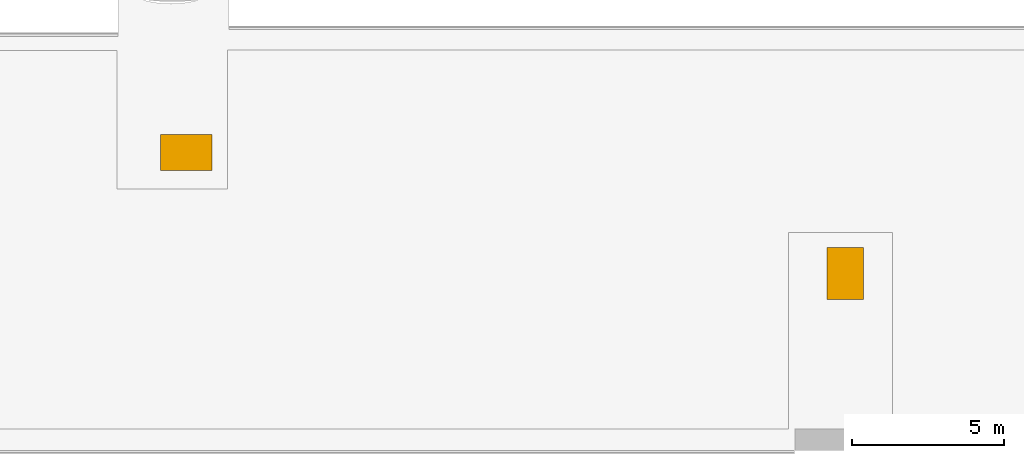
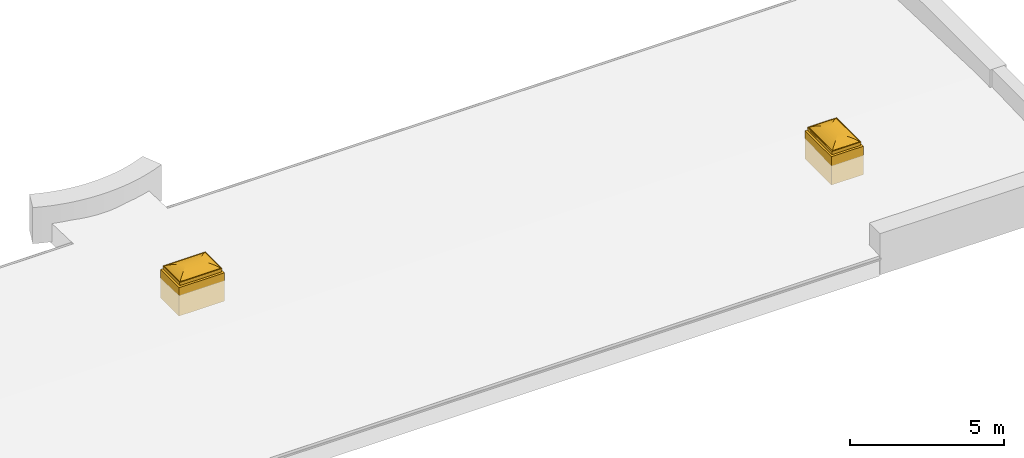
# One storey, part 3 of 4: 2 windows.
"""IFC2X3 building model written with IfcOpenShell, lengths in millimetres."""

from ifc_helpers import new_model, entity, si_unit, converted_unit, derived_unit, direction, frame, origin, place, context, subcontext, project, spatial, face_set, surface_model, source, transform, mapped, material, material_list, type_object, type_shapes, element, save


model = new_model("IFC2X3")

# Units and contexts
model_context = context("Model", 3, precision=0.01, world=origin(), true_north=direction((6.12303176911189e-17, 1.0)))
body_context = subcontext(model_context, "Body", "Model", "MODEL_VIEW")
ifc_project = project(units=[si_unit("LENGTHUNIT", "METRE", prefix="MILLI"), si_unit("AREAUNIT", "SQUARE_METRE"), si_unit("VOLUMEUNIT", "CUBIC_METRE"), converted_unit("PLANEANGLEUNIT", "DEGREE", entity("IfcRatioMeasure", 0.0174532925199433), si_unit("PLANEANGLEUNIT", "RADIAN"), dimensions=[0, 0, 0, 0, 0, 0, 0]), si_unit("MASSUNIT", "GRAM", prefix="KILO"), derived_unit("MASSDENSITYUNIT", [(si_unit("MASSUNIT", "GRAM", prefix="KILO"), 1), (si_unit("LENGTHUNIT", "METRE"), -3)]), si_unit("TIMEUNIT", "SECOND"), si_unit("FREQUENCYUNIT", "HERTZ"), si_unit("THERMODYNAMICTEMPERATUREUNIT", "DEGREE_CELSIUS"), derived_unit("THERMALTRANSMITTANCEUNIT", [(si_unit("MASSUNIT", "GRAM", prefix="KILO"), 1), (si_unit("THERMODYNAMICTEMPERATUREUNIT", "KELVIN"), -1), (si_unit("TIMEUNIT", "SECOND"), -3)]), derived_unit("VOLUMETRICFLOWRATEUNIT", [(si_unit("LENGTHUNIT", "METRE"), 3), (si_unit("TIMEUNIT", "SECOND"), -1)]), si_unit("ELECTRICCURRENTUNIT", "AMPERE"), si_unit("ELECTRICVOLTAGEUNIT", "VOLT"), si_unit("POWERUNIT", "WATT"), si_unit("FORCEUNIT", "NEWTON", prefix="KILO"), si_unit("ILLUMINANCEUNIT", "LUX"), si_unit("LUMINOUSFLUXUNIT", "LUMEN"), si_unit("LUMINOUSINTENSITYUNIT", "CANDELA"), derived_unit("USERDEFINED", [(si_unit("MASSUNIT", "GRAM", prefix="KILO"), -1), (si_unit("LENGTHUNIT", "METRE"), -2), (si_unit("TIMEUNIT", "SECOND"), 3), (si_unit("LUMINOUSFLUXUNIT", "LUMEN"), 1)]), derived_unit("LINEARVELOCITYUNIT", [(si_unit("LENGTHUNIT", "METRE"), 1), (si_unit("TIMEUNIT", "SECOND"), -1)]), si_unit("PRESSUREUNIT", "PASCAL"), derived_unit("USERDEFINED", [(si_unit("LENGTHUNIT", "METRE"), -2), (si_unit("MASSUNIT", "GRAM", prefix="KILO"), 1), (si_unit("TIMEUNIT", "SECOND"), -2)]), derived_unit("LINEARFORCEUNIT", [(si_unit("MASSUNIT", "GRAM", prefix="KILO"), 1), (si_unit("LENGTHUNIT", "METRE"), 1), (si_unit("TIMEUNIT", "SECOND"), -2), (si_unit("LENGTHUNIT", "METRE"), -1)]), derived_unit("PLANARFORCEUNIT", [(si_unit("MASSUNIT", "GRAM", prefix="KILO"), 1), (si_unit("LENGTHUNIT", "METRE"), 1), (si_unit("TIMEUNIT", "SECOND"), -2), (si_unit("LENGTHUNIT", "METRE"), -2)])], contexts=[model_context])

# Site, building, storey
site_placement = place(None, origin())
site = spatial("IfcSite", under=ifc_project, at=site_placement, Name="Default", CompositionType="ELEMENT")
building_placement = place(site_placement, origin())
building = spatial("IfcBuilding", under=site, at=building_placement, Name="SMA ARH", CompositionType="ELEMENT")
storey_placement = place(building_placement, frame((0.0, 0.0, 13000.0)))
storey = spatial("IfcBuildingStorey", under=building, at=storey_placement, Name="Katus", CompositionType="ELEMENT", Elevation=12999.9999999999)

# Windows
ifc_material = material(Name="<Unnamed>")
ifc_material_list = material_list([ifc_material, ifc_material, ifc_material, ifc_material, ifc_material, ifc_material])
window_style = type_object("IfcWindowStyle", Name="SMA_katuseluuk 1, kuppel:LU-01 - 1000 x 1500", ConstructionType="NOTDEFINED", OperationType="NOTDEFINED", ParameterTakesPrecedence=False, Sizeable=False, material=ifc_material_list)
shared_shape = source(origin(), body_context, "Body", "SurfaceModel", [
    surface_model("IfcFaceBasedSurfaceModel", [(770.0, -520.0, 5250.0), (770.0, -520.0, 5240.0), (770.0, 520.0, 5240.0), (770.0, 520.0, 5250.0), (768.0, -518.0, 5242.0), (768.0, 518.0, 5242.0), (768.0, 518.0, 5250.0), (768.0, -518.0, 5250.0), (762.0, -512.0, 5280.5432888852), (762.0, -512.0, 5242.0), (762.0, 512.0, 5242.0), (762.0, 512.0, 5280.5432888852), (760.0, -510.0, 5240.0), (760.0, 510.0, 5240.0), (760.0, 510.0, 5279.5), (760.0, -510.0, 5279.5), (-770.0, 520.0, 5240.0), (-770.0, 520.0, 5250.0), (-768.0, 518.0, 5242.0), (-768.0, 518.0, 5250.0), (-762.0, 512.0, 5242.0), (-762.0, 512.0, 5280.5432888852), (-760.0, 510.0, 5240.0), (-760.0, 510.0, 5279.5), (-770.0, -520.0, 5240.0), (-770.0, -520.0, 5250.0), (-768.0, -518.0, 5242.0), (-768.0, -518.0, 5250.0), (-762.0, -512.0, 5242.0), (-762.0, -512.0, 5280.5432888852), (-760.0, -510.0, 5240.0), (-760.0, -510.0, 5279.5), (696.294417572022, 446.294415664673, 5322.30710906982), (696.294417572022, -446.294415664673, 5322.30710906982), (627.204594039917, 377.204592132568, 5358.19619750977), (627.204594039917, -377.204592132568, 5358.19619750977), (555.254443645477, 305.254441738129, 5387.9391494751), (555.254443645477, -305.254441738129, 5387.9391494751), (480.9895362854, -230.989552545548, 5411.30923461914), (480.9895362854, 230.989552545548, 5411.30923461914), (404.97306432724, 154.973080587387, 5428.13030090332), (404.97306432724, -154.973080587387, 5428.13030090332), (327.781446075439, 77.7814441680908, 5438.27386779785), (327.781446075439, -77.7814441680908, 5438.27386779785), (250.000001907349, 0.0, 5441.66377716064), (327.459154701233, 77.4591346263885, 5436.29433746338), (327.459154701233, -77.4591346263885, 5436.29433746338), (404.333168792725, -154.33314871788, 5426.21181335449), (404.333168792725, 154.33314871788, 5426.21181335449), (480.041338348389, -230.04133644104, 5409.49248504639), (480.041338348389, 230.04133644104, 5409.49248504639), (250.000001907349, 0.0, 5439.66389923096), (554.011823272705, -304.011803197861, 5386.26250762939), (554.011823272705, 304.011803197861, 5386.26250762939), (625.685791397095, -375.685789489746, 5356.69687042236), (625.685791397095, 375.685789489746, 5356.69687042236), (694.521851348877, -444.521849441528, 5321.01939697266), (694.521851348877, 444.521849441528, 5321.01939697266), (-696.294417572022, 446.294415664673, 5322.30710906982), (-627.204594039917, 377.204592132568, 5358.19619750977), (-555.254443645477, 305.254441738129, 5387.9391494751), (-480.9895362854, 230.989552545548, 5411.30923461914), (-404.97306432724, 154.973080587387, 5428.13030090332), (-327.781446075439, 77.7814441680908, 5438.27386779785), (-250.000001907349, 0.0, 5441.66377716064), (-250.000001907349, 0.0, 5439.66389923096), (-327.459154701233, 77.4591346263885, 5436.29433746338), (-404.333168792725, 154.33314871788, 5426.21181335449), (-480.041338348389, 230.04133644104, 5409.49248504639), (-554.011823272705, 304.011803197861, 5386.26250762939), (-625.685791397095, 375.685789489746, 5356.69687042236), (-694.521851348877, 444.521849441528, 5321.01939697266), (-696.294417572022, -446.294415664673, 5322.30710906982), (-627.204594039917, -377.204592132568, 5358.19619750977), (-555.254443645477, -305.254441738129, 5387.9391494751), (-480.9895362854, -230.989552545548, 5411.30923461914), (-404.97306432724, -154.973080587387, 5428.13030090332), (-327.781446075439, -77.7814441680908, 5438.27386779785), (-327.459154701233, -77.4591346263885, 5436.29433746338), (-404.333168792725, -154.33314871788, 5426.21181335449), (-480.041338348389, -230.04133644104, 5409.49248504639), (-554.011823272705, -304.011803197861, 5386.26250762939), (-625.685791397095, -375.685789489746, 5356.69687042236), (-694.521851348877, -444.521849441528, 5321.01939697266), (-850.0, -600.0, 5122.0), (-850.0, -600.0, 5100.0), (850.0, -600.0, 5100.0), (850.0, -600.0, 5122.0), (-780.0, -530.0, 5137.75), (780.0, -530.0, 5137.75), (850.0, 600.0, 5100.0), (850.0, 600.0, 5122.0), (780.0, 530.0, 5137.75), (-850.0, 600.0, 5100.0), (-850.0, 600.0, 5122.0), (-780.0, 530.0, 5137.75), (785.0, -535.0, 5100.0), (-785.0, -535.0, 5100.0), (-785.0, 535.0, 5100.0), (785.0, 535.0, 5100.0), (-780.0, -530.0, 5130.0), (780.0, -530.0, 5130.0), (-785.0, -535.0, 5110.0), (785.0, -535.0, 5110.0), (780.0, 530.0, 5130.0), (785.0, 535.0, 5110.0), (-780.0, 530.0, 5130.0), (-785.0, 535.0, 5110.0), (-850.0, -600.0, 5100.0), (-850.0, -600.0, 4000.0), (850.0, -600.0, 4000.0), (850.0, -600.0, 5100.0), (-750.0, -500.0, 4000.0), (750.0, -500.0, 4000.0), (750.0, -500.0, 5100.0), (-750.0, -500.0, 5100.0), (850.0, 600.0, 4000.0), (850.0, 600.0, 5100.0), (750.0, 500.0, 4000.0), (750.0, 500.0, 5100.0), (-850.0, 600.0, 4000.0), (-850.0, 600.0, 5100.0), (-750.0, 500.0, 4000.0), (-750.0, 500.0, 5100.0), (750.0, -500.0, 5110.0), (750.0, 500.0, 5110.0), (750.0, 500.0, 5250.0), (750.0, -500.0, 5250.0), (760.0, -510.0, 5100.0), (760.0, 510.0, 5100.0), (760.0, 510.0, 5110.0), (760.0, -510.0, 5110.0), (785.0, -535.0, 5110.0), (785.0, -535.0, 5100.0), (785.0, 535.0, 5100.0), (785.0, 535.0, 5110.0), (780.0, -530.0, 5130.0), (780.0, 530.0, 5130.0), (780.0, -530.0, 5200.0), (780.0, 530.0, 5200.0), (790.0, -540.0, 5250.0), (790.0, -540.0, 5200.0), (790.0, 540.0, 5200.0), (790.0, 540.0, 5250.0), (770.0, -520.0, 5240.0), (770.0, 520.0, 5240.0), (770.0, 520.0, 5250.0), (770.0, -520.0, 5250.0), (760.0, -510.0, 5250.0), (760.0, -510.0, 5240.0), (760.0, 510.0, 5240.0), (760.0, 510.0, 5250.0), (-750.0, 500.0, 5110.0), (-750.0, 500.0, 5250.0), (-760.0, 510.0, 5100.0), (-760.0, 510.0, 5110.0), (-785.0, 535.0, 5100.0), (-785.0, 535.0, 5110.0), (-780.0, 530.0, 5130.0), (-780.0, 530.0, 5200.0), (-790.0, 540.0, 5200.0), (-790.0, 540.0, 5250.0), (-770.0, 520.0, 5240.0), (-770.0, 520.0, 5250.0), (-760.0, 510.0, 5240.0), (-760.0, 510.0, 5250.0), (-750.0, -500.0, 5110.0), (-750.0, -500.0, 5250.0), (-760.0, -510.0, 5100.0), (-760.0, -510.0, 5110.0), (-785.0, -535.0, 5100.0), (-785.0, -535.0, 5110.0), (-780.0, -530.0, 5130.0), (-780.0, -530.0, 5200.0), (-790.0, -540.0, 5200.0), (-790.0, -540.0, 5250.0), (-770.0, -520.0, 5240.0), (-770.0, -520.0, 5250.0), (-760.0, -510.0, 5240.0), (-760.0, -510.0, 5250.0), (793.0, -543.0, 5226.5), (793.0, 543.0, 5226.5), (793.0, 543.0, 5253.0), (793.0, -543.0, 5253.0), (796.0, -546.0, 5279.5), (796.0, -546.0, 5226.5), (796.0, 546.0, 5226.5), (796.0, 546.0, 5279.5), (765.0, -515.0, 5276.5), (765.0, 515.0, 5276.5), (765.0, 515.0, 5279.5), (765.0, -515.0, 5279.5), (775.0, -525.0, 5253.0), (775.0, 525.0, 5253.0), (775.0, 525.0, 5276.5), (775.0, -525.0, 5276.5), (-793.0, 543.0, 5226.5), (-793.0, 543.0, 5253.0), (-796.0, 546.0, 5226.5), (-796.0, 546.0, 5279.5), (-765.0, 515.0, 5276.5), (-765.0, 515.0, 5279.5), (-775.0, 525.0, 5253.0), (-775.0, 525.0, 5276.5), (-793.0, -543.0, 5226.5), (-793.0, -543.0, 5253.0), (-796.0, -546.0, 5226.5), (-796.0, -546.0, 5279.5), (-765.0, -515.0, 5276.5), (-765.0, -515.0, 5279.5), (-775.0, -525.0, 5253.0), (-775.0, -525.0, 5276.5), (793.0, -543.0, 5256.0), (793.0, 543.0, 5256.0), (793.0, 543.0, 5276.5), (793.0, -543.0, 5276.5), (778.0, -528.0, 5276.5), (778.0, -528.0, 5256.0), (778.0, 528.0, 5256.0), (778.0, 528.0, 5276.5), (-793.0, 543.0, 5256.0), (-793.0, 543.0, 5276.5), (-778.0, 528.0, 5256.0), (-778.0, 528.0, 5276.5), (-793.0, -543.0, 5256.0), (-793.0, -543.0, 5276.5), (-778.0, -528.0, 5256.0), (-778.0, -528.0, 5276.5)], [face_set([[[0, 1, 2, 3]], [[4, 5, 6, 7]], [[8, 9, 10, 11]], [[12, 13, 14, 15]], [[3, 2, 16, 17]], [[5, 18, 19, 6]], [[11, 10, 20, 21]], [[13, 22, 23, 14]], [[17, 16, 24, 25]], [[18, 26, 27, 19]], [[21, 20, 28, 29]], [[22, 30, 31, 23]], [[1, 2, 16, 24], [13, 12, 30, 22]], [[25, 24, 1, 0]], [[3, 17, 25, 0], [7, 27, 19, 6]], [[26, 4, 7, 27]], [[5, 18, 26, 4], [9, 28, 20, 10]], [[29, 28, 9, 8]], [[30, 12, 15, 31]], [[8, 11, 32, 33]], [[33, 32, 34, 35]], [[36, 37, 35, 34]], [[38, 39, 40, 41]], [[41, 40, 42, 43]], [[43, 42, 44]], [[39, 38, 37, 36]], [[45, 46, 47, 48]], [[48, 47, 49, 50]], [[51, 46, 45]], [[52, 53, 50, 49]], [[53, 52, 54, 55]], [[55, 54, 56, 57]], [[57, 56, 15, 14]], [[11, 21, 58, 32]], [[32, 58, 59, 34]], [[34, 59, 60, 36]], [[36, 60, 61, 39]], [[39, 61, 62, 40]], [[40, 62, 63, 42]], [[42, 63, 64, 44]], [[65, 51, 45, 66]], [[66, 45, 48, 67]], [[67, 48, 50, 68]], [[53, 69, 68, 50]], [[69, 53, 55, 70]], [[70, 55, 57, 71]], [[71, 57, 14, 23]], [[21, 29, 72, 58]], [[58, 72, 73, 59]], [[74, 60, 59, 73]], [[61, 75, 76, 62]], [[62, 76, 77, 63]], [[63, 77, 64]], [[75, 61, 60, 74]], [[78, 66, 67, 79]], [[79, 67, 68, 80]], [[65, 66, 78]], [[69, 81, 80, 68]], [[81, 69, 70, 82]], [[82, 70, 71, 83]], [[83, 71, 23, 31]], [[29, 8, 33, 72]], [[72, 33, 35, 73]], [[73, 35, 37, 74]], [[74, 37, 38, 75]], [[75, 38, 41, 76]], [[76, 41, 43, 77]], [[77, 43, 44, 64]], [[51, 65, 78, 46]], [[46, 78, 79, 47]], [[47, 79, 80, 49]], [[81, 52, 49, 80]], [[52, 81, 82, 54]], [[54, 82, 83, 56]], [[56, 83, 31, 15]], [[51, 44, 64, 65]], [[65, 64, 44, 51]]]), face_set([[[84, 85, 86, 87]], [[88, 84, 87, 89]], [[87, 86, 90, 91]], [[89, 87, 91, 92]], [[91, 90, 93, 94]], [[92, 91, 94, 95]], [[85, 86, 90, 93], [96, 97, 98, 99]], [[94, 93, 85, 84]], [[95, 94, 84, 88]], [[100, 101, 89, 88]], [[102, 103, 101, 100]], [[97, 96, 103, 102]], [[101, 104, 92, 89]], [[103, 105, 104, 101]], [[96, 99, 105, 103]], [[104, 106, 95, 92]], [[105, 107, 106, 104]], [[99, 98, 107, 105]], [[106, 100, 88, 95]], [[107, 102, 100, 106]], [[98, 97, 102, 107]]]), face_set([[[108, 109, 110, 111]], [[112, 113, 114, 115]], [[111, 110, 116, 117]], [[113, 118, 119, 114]], [[117, 116, 120, 121]], [[118, 122, 123, 119]], [[109, 110, 116, 120], [113, 112, 122, 118]], [[121, 120, 109, 108]], [[111, 117, 121, 108], [115, 123, 119, 114]], [[122, 112, 115, 123]]]), face_set([[[124, 125, 126, 127]], [[128, 129, 130, 131]], [[132, 133, 134, 135]], [[136, 132, 135, 137]], [[138, 136, 137, 139]], [[140, 141, 142, 143]], [[144, 145, 146, 147]], [[148, 149, 150, 151]], [[125, 152, 153, 126]], [[129, 154, 155, 130]], [[135, 134, 156, 157]], [[137, 135, 157, 158]], [[139, 137, 158, 159]], [[143, 142, 160, 161]], [[145, 162, 163, 146]], [[151, 150, 164, 165]], [[152, 166, 167, 153]], [[154, 168, 169, 155]], [[157, 156, 170, 171]], [[158, 157, 171, 172]], [[159, 158, 172, 173]], [[161, 160, 174, 175]], [[162, 176, 177, 163]], [[165, 164, 178, 179]], [[166, 124, 127, 167]], [[131, 130, 155, 169], [125, 124, 166, 152]], [[168, 128, 131, 169]], [[133, 134, 156, 170], [129, 128, 168, 154]], [[171, 170, 133, 132]], [[172, 171, 132, 136]], [[173, 172, 136, 138]], [[141, 142, 160, 174], [139, 138, 173, 159]], [[175, 174, 141, 140]], [[143, 161, 175, 140], [147, 177, 163, 146]], [[176, 144, 147, 177]], [[145, 162, 176, 144], [149, 178, 164, 150]], [[179, 178, 149, 148]], [[151, 165, 179, 148], [127, 167, 153, 126]]]), face_set([[[180, 181, 182, 183]], [[184, 185, 186, 187]], [[188, 189, 190, 191]], [[192, 193, 194, 195]], [[181, 196, 197, 182]], [[187, 186, 198, 199]], [[189, 200, 201, 190]], [[193, 202, 203, 194]], [[196, 204, 205, 197]], [[199, 198, 206, 207]], [[200, 208, 209, 201]], [[202, 210, 211, 203]], [[183, 182, 197, 205], [193, 192, 210, 202]], [[204, 180, 183, 205]], [[185, 186, 198, 206], [181, 180, 204, 196]], [[207, 206, 185, 184]], [[187, 199, 207, 184], [191, 209, 201, 190]], [[208, 188, 191, 209]], [[195, 194, 203, 211], [189, 188, 208, 200]], [[210, 192, 195, 211]]]), face_set([[[212, 213, 214, 215]], [[216, 217, 218, 219]], [[213, 220, 221, 214]], [[219, 218, 222, 223]], [[220, 224, 225, 221]], [[223, 222, 226, 227]], [[224, 212, 215, 225]], [[213, 220, 224, 212], [217, 226, 222, 218]], [[227, 226, 217, 216]], [[215, 214, 221, 225], [219, 216, 227, 223]]])]),
])
type_shapes(window_style, [shared_shape])
window_1_placement = place(storey_placement, frame((10599.7841177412, 9120.0, -3898.7454874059)))
element("IfcWindow", 1, at=window_1_placement, inside=storey, type_object=window_style, Name="SMA_katuseluuk 1, kuppel:LU-01 - 1000 x 1500", ObjectType="SMA_katuseluuk 1, kuppel:LU-01 - 1000 x 1500", OverallHeight=1441.66368046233, OverallWidth=1700.0, context=body_context, shape_type="MappedRepresentation", body=[
    mapped(shared_shape, transform((0.0, 0.0, 0.0), scale=1.0)),
])
window_2_placement = place(storey_placement, frame((32315.0, 5130.0, -3836.41191386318), z_axis=(0.0, 0.0, 1.0), x_axis=(0.0, -1.0, 0.0)))
element("IfcWindow", 2, at=window_2_placement, inside=storey, type_object=window_style, Name="SMA_katuseluuk 1, kuppel:LU-01 - 1000 x 1500", ObjectType="SMA_katuseluuk 1, kuppel:LU-01 - 1000 x 1500", OverallHeight=1441.66368046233, OverallWidth=1700.0, context=body_context, shape_type="MappedRepresentation", body=[
    mapped(shared_shape, transform((0.0, 0.0, 0.0), scale=1.0)),
])

save(model, "model.ifc")
